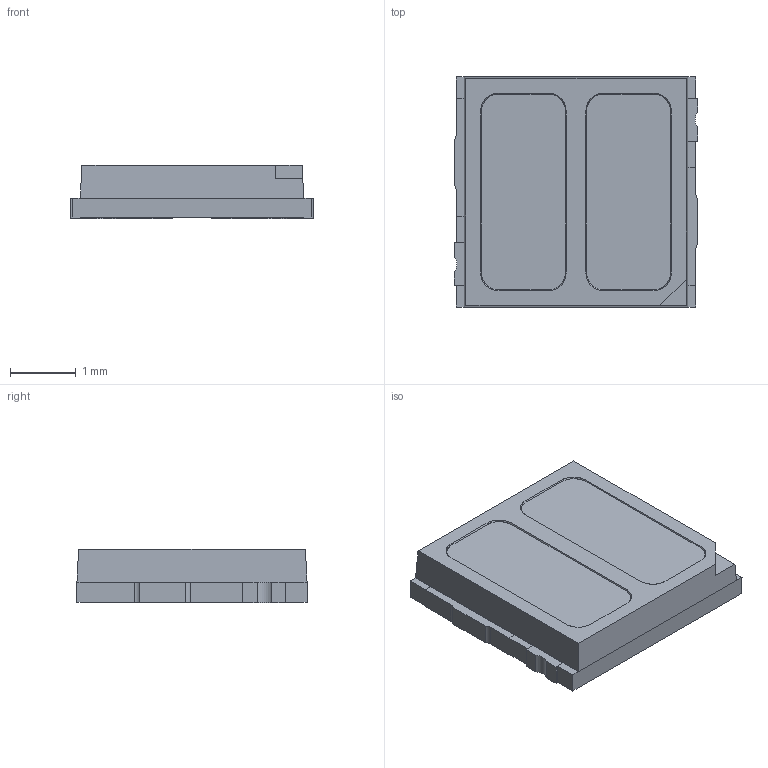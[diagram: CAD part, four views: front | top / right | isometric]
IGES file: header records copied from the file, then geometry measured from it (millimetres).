
Start section: 3D InterOp IGES (Version 20 0 3), Spatial Corp. Copyright (c) 1999-2007.
Global section: file name: MCZYW-KZHG.igs; native system: Spatial Corp.; preprocessor: 3D InterOp ACIS/IGES; author: Noname; organization: Noname; date: 20191121.095635; units: millimetre
Bounding box: 3.7 x 3.5 x 0.81 mm (x, y, z)
Surface area: 36.9 mm2 (no closed solid volume)
Topology: 0 solids, 0 shells, 118 faces, 676 edges, 676 vertices
Faces by surface type: extrusion 88, revolution 30
